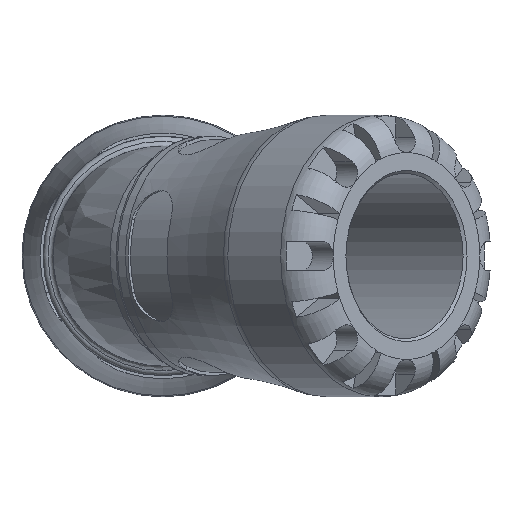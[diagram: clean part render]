
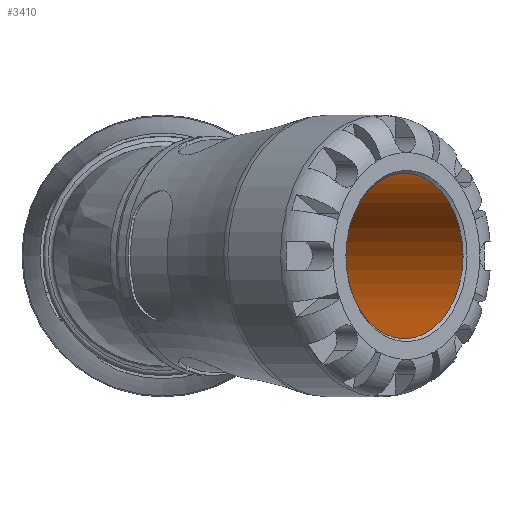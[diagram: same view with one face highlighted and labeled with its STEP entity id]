
A CAD part, left-side view. The second image highlights one B-rep face of the part: STEP entity #3410.
In plain terms, the highlighted cylindrical face has radius 25 mm (diameter 50 mm), a full revolution.
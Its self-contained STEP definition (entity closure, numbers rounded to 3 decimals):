
#160=LINE('',#5557,#330);
#330=VECTOR('',#4185,25.);
#498=CYLINDRICAL_SURFACE('',#3672,25.);
#875=FACE_OUTER_BOUND('',#1071,.T.);
#1071=EDGE_LOOP('',(#2458,#2459,#2460,#2461,#2462,#2463));
#1291=CIRCLE('',#3669,25.);
#1292=CIRCLE('',#3670,25.);
#1294=CIRCLE('',#3673,25.);
#1295=CIRCLE('',#3674,25.);
#1524=VERTEX_POINT('',#5548);
#1525=VERTEX_POINT('',#5549);
#1527=VERTEX_POINT('',#5556);
#1528=VERTEX_POINT('',#5558);
#1884=EDGE_CURVE('',#1524,#1525,#1291,.T.);
#1885=EDGE_CURVE('',#1525,#1524,#1292,.T.);
#1888=EDGE_CURVE('',#1525,#1527,#160,.T.);
#1889=EDGE_CURVE('',#1528,#1527,#1294,.T.);
#1890=EDGE_CURVE('',#1527,#1528,#1295,.T.);
#2458=ORIENTED_EDGE('',*,*,#1884,.F.);
#2459=ORIENTED_EDGE('',*,*,#1885,.F.);
#2460=ORIENTED_EDGE('',*,*,#1888,.T.);
#2461=ORIENTED_EDGE('',*,*,#1889,.F.);
#2462=ORIENTED_EDGE('',*,*,#1890,.F.);
#2463=ORIENTED_EDGE('',*,*,#1888,.F.);
#3410=ADVANCED_FACE('',(#875),#498,.F.);
#3669=AXIS2_PLACEMENT_3D('',#5550,#4176,#4177);
#3670=AXIS2_PLACEMENT_3D('',#5551,#4178,#4179);
#3672=AXIS2_PLACEMENT_3D('',#5555,#4183,#4184);
#3673=AXIS2_PLACEMENT_3D('',#5559,#4186,#4187);
#3674=AXIS2_PLACEMENT_3D('',#5560,#4188,#4189);
#4176=DIRECTION('center_axis',(0.707,0.707,0.));
#4177=DIRECTION('ref_axis',(-0.707,0.707,0.));
#4178=DIRECTION('center_axis',(0.707,0.707,0.));
#4179=DIRECTION('ref_axis',(-0.707,0.707,0.));
#4183=DIRECTION('center_axis',(-0.707,-0.707,0.));
#4184=DIRECTION('ref_axis',(0.707,-0.707,0.));
#4185=DIRECTION('',(0.707,0.707,0.));
#4186=DIRECTION('center_axis',(-0.707,-0.707,0.));
#4187=DIRECTION('ref_axis',(0.,0.,-1.));
#4188=DIRECTION('center_axis',(-0.707,-0.707,0.));
#4189=DIRECTION('ref_axis',(0.,0.,-1.));
#5548=CARTESIAN_POINT('',(-55.26,-90.616,0.));
#5549=CARTESIAN_POINT('',(-90.616,-55.26,0.));
#5550=CARTESIAN_POINT('Origin',(-72.938,-72.938,0.));
#5551=CARTESIAN_POINT('Origin',(-72.938,-72.938,0.));
#5555=CARTESIAN_POINT('Origin',(-44.194,-44.194,0.));
#5556=CARTESIAN_POINT('',(-32.527,2.828,0.));
#5557=CARTESIAN_POINT('',(-61.872,-26.517,0.));
#5558=CARTESIAN_POINT('',(2.828,-32.527,0.));
#5559=CARTESIAN_POINT('Origin',(-14.849,-14.849,0.));
#5560=CARTESIAN_POINT('Origin',(-14.849,-14.849,0.));
